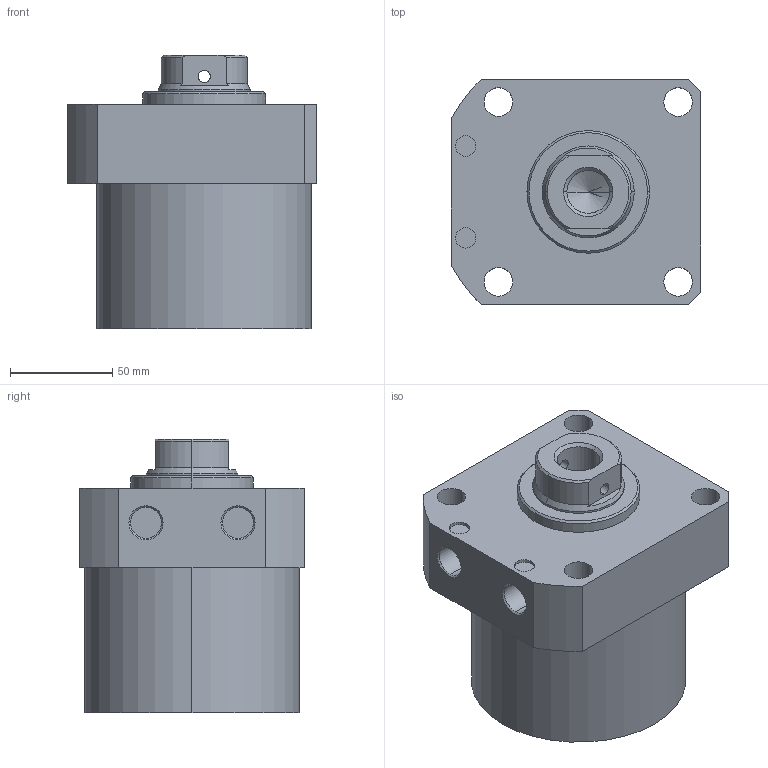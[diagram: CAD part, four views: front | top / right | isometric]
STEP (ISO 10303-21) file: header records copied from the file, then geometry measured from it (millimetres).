
FILE_DESCRIPTION (( 'STEP AP203' ), '1' );
FILE_NAME ('CLLR-105CB-050.STEP', '2019-12-19T01:44:19', ( '' ), ( '' ), 'SwSTEP 2.0', 'SolidWorks 2015', '' );
FILE_SCHEMA (( 'CONFIG_CONTROL_DESIGN' ));
Length unit declared in the file: millimetre
Products named in the file (1): CLLR-105CB-050
Bounding box: 122 x 110 x 134 mm (x, y, z)
Volume: 1116867.5 mm3; surface area: 81375.5 mm2
Topology: 1 solids, 1 shells, 67 faces, 160 edges, 101 vertices
Faces by surface type: cylinder 33, plane 19, cone 15
Entity records: 2165 total; most frequent: CARTESIAN_POINT 471, DIRECTION 358, ORIENTED_EDGE 316, EDGE_CURVE 158, AXIS2_PLACEMENT_3D 144, VERTEX_POINT 101, EDGE_LOOP 87, CIRCLE 76
